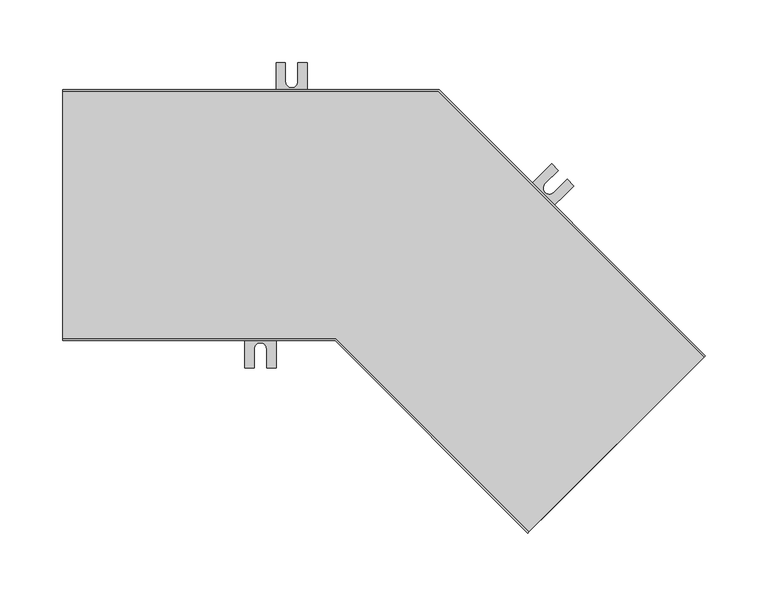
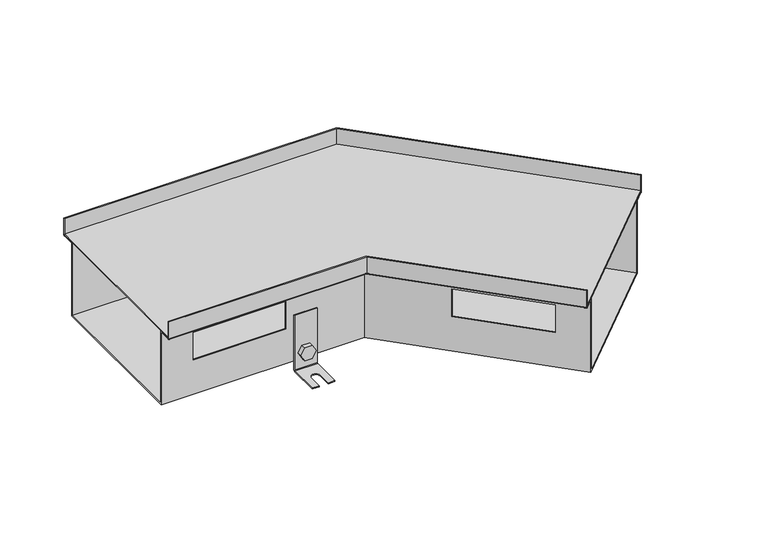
"""IFC4 building model written with IfcOpenShell, lengths in millimetres: proxy geometry, TECHNO_Угловой элемент_KVU : 200_105_135°."""

from ifc_helpers import new_model, si_unit, point, frame, frame_2d, origin, place, context, project, spatial, polyline, circle_curve, ellipse_curve, trimmed, segment, composite_curve, outline, extrude, source, transform, mapped, element, save
from ifc_brep_helpers import plane_surface, cylinder_surface, revolved_surface, advanced_brep


def mechanical_equipment_6aecba1d(model_context):
    return source(origin(), model_context, "Body", "SolidModel", [
        extrude(outline(composite_curve([segment(trimmed(circle_curve(frame_2d((0.0, -7.4999999)), 7.5), [point((0.0, -15.0))], [point((0.0, 0.0))], False, "CARTESIAN"), True, "CONTINUOUS"), segment(trimmed(circle_curve(frame_2d((0.0, -7.4999999)), 7.5), [point((0.0, 0.0))], [point((0.0, -15.0))], False, "CARTESIAN"), True, "CONTINUOUS")], self_intersect=False)), frame((363.5688996, -48.5631347, -95.5), z_axis=(0.7071067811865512, 0.7071067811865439, 0.0), x_axis=(0.0, 0.0, 1.0)), (0.0, 0.0, 1.0), 1.5),
        extrude(outline(polyline([(0.0, 0.0), (8.6602541, 0.0), (12.9903811, -7.5), (8.660254, -15.0), (0.0, -15.0), (-4.330127, -7.5), (0.0, 0.0)])), frame((347.6871017, -41.5908822, -95.5), z_axis=(0.7071067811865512, 0.7071067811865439, 0.0), x_axis=(0.3535533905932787, -0.3535533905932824, -0.8660254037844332)), (0.0, 0.0, 1.0), 5.1),
        advanced_brep(
        [(366.2559054, -52.9471968, -50.5), (366.2559054, -52.9471968, -113.5), (365.69022, -53.5128822, -114.3), (342.3556962, -76.847406, -114.3), (342.3556962, -76.847406, -115.5), (365.69022, -53.5128822, -115.5), (367.1044335, -52.0986686, -113.5), (367.1044335, -52.0986686, -50.5), (348.5782359, -35.2695272, -50.5), (349.426764, -34.4209991, -50.5), (349.426764, -34.4209991, -113.5), (348.0125504, -35.8352127, -115.5), (324.6780267, -59.1697364, -115.5), (324.6780267, -59.1697364, -114.3), (348.0125504, -35.8352127, -114.3), (348.5782359, -35.2695272, -113.5), (329.9813275, -64.4730373, -114.3), (340.5879292, -53.8664356, -114.3), (347.6589971, -60.9375034, -114.3), (337.0523953, -71.5441051, -114.3), (337.0523953, -71.5441051, -115.5), (329.9813275, -64.4730373, -115.5), (347.6589971, -60.9375034, -115.5), (340.5879292, -53.8664356, -115.5)],
        [
            (0, 1),
            (1, 2, circle_curve(frame((365.69022, -53.5128822, -113.5), z_axis=(-0.7071067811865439, 0.7071067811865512, 0.0), x_axis=(-0.7071067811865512, -0.7071067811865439, 0.0)), 0.8)),
            (2, 3),
            (3, 4),
            (4, 5),
            (5, 6, circle_curve(frame((365.69022, -53.5128822, -113.5), z_axis=(0.7071067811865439, -0.7071067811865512, 0.0), x_axis=(-0.7071067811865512, -0.7071067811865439, 0.0)), 2.0)),
            (6, 7),
            (7, 0),
            (8, 9),
            (9, 10),
            (10, 11, circle_curve(frame((348.0125504, -35.8352127, -113.5), z_axis=(-0.7071067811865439, 0.7071067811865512, 0.0), x_axis=(-0.7071067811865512, -0.7071067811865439, 0.0)), 2.0)),
            (11, 12),
            (12, 13),
            (13, 14),
            (14, 15, circle_curve(frame((348.0125504, -35.8352127, -113.5), z_axis=(0.7071067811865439, -0.7071067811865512, 0.0), x_axis=(-0.7071067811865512, -0.7071067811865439, 0.0)), 0.8)),
            (15, 8),
            (0, 8),
            (15, 1),
            (14, 2),
            (13, 16),
            (16, 17),
            (17, 18, circle_curve(frame((344.1234631, -57.4019695, -114.3), z_axis=(0.0, 0.0, -1.0), x_axis=(0.7071067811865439, -0.7071067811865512, 0.0)), 5.0)),
            (18, 19),
            (19, 3),
            (19, 20),
            (20, 4),
            (12, 21),
            (21, 16),
            (20, 22),
            (22, 23, circle_curve(frame((344.1234631, -57.4019695, -115.5), z_axis=(0.0, 0.0, 1.0), x_axis=(0.7071067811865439, -0.7071067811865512, 0.0)), 5.0)),
            (23, 21),
            (11, 5),
            (10, 6),
            (9, 7),
            (23, 17),
            (18, 22),
        ],
        [
            plane_surface(frame((366.2559054, -52.9471968, -50.5), z_axis=(0.7071067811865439, -0.7071067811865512, 0.0), x_axis=(0.0, 0.0, -1.0))),
            plane_surface(frame((348.5782359, -35.2695272, -50.5), z_axis=(-0.7071067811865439, 0.7071067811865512, 0.0), x_axis=(0.0, 0.0, 1.0))),
            plane_surface(frame((366.2559054, -52.9471968, -50.5), z_axis=(-0.7071067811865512, -0.7071067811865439, 0.0), x_axis=(-0.7071067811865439, 0.7071067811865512, 0.0))),
            revolved_surface(polyline([(347.44686497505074, -36.40089812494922, -113.5), (365.12453452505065, -54.07856767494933, -113.5)]), (348.0125504, -35.8352127, -113.5), (-0.7071067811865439, 0.7071067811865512, 0.0)),
            plane_surface(frame((365.69022, -53.5128822, -114.3), z_axis=(0.0, 0.0, 1.0), x_axis=(-0.7071067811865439, 0.7071067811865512, 0.0))),
            plane_surface(frame((342.3556962, -76.847406, -114.3), z_axis=(-0.7071067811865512, -0.7071067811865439, 0.0), x_axis=(-0.7071067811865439, 0.7071067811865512, 0.0))),
            plane_surface(frame((342.3556962, -76.847406, -115.5), z_axis=(0.0, 0.0, -1.0), x_axis=(-0.7071067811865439, 0.7071067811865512, 0.0))),
            cylinder_surface(frame((348.0125504, -35.8352127, -113.5), z_axis=(0.7071067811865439, -0.7071067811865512, 0.0), x_axis=(-0.7071067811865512, -0.7071067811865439, 0.0)), 2.0),
            plane_surface(frame((367.1044335, -52.0986686, -113.5), z_axis=(0.7071067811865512, 0.7071067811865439, 0.0), x_axis=(-0.7071067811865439, 0.7071067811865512, 0.0))),
            plane_surface(frame((367.1044335, -52.0986686, -50.5), z_axis=(0.0, 0.0, 1.0), x_axis=(-0.7071067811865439, 0.7071067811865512, 0.0))),
            plane_surface(frame((340.5879292, -53.8664356, -114.3), z_axis=(0.7071067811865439, -0.7071067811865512, 0.0), x_axis=(0.0, 0.0, -1.0))),
            plane_surface(frame((337.0523953, -71.5441051, -114.3), z_axis=(-0.707106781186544, 0.7071067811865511, 0.0), x_axis=(0.0, 0.0, -1.0))),
            revolved_surface(polyline([(347.6589970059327, -60.93750340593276, -114.3), (347.6589970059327, -60.93750340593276, -115.5)]), (344.1234631, -57.4019695, -115.5), (0.0, 0.0, 1.0)),
        ],
        [
            (0, [[1, 2, 3, 4, 5, 6, 7, 8]]),
            (1, [[9, 10, 11, 12, 13, 14, 15, 16]]),
            (2, [[-1, 17, -16, 18]]),
            (3, [[-2, -18, -15, 19]]),
            (4, [[-3, -19, -14, 20, 21, 22, 23, 24]]),
            (5, [[-4, -24, 25, 26]]),
            (5, [[-13, 27, 28, -20]]),
            (6, [[-5, -26, 29, 30, 31, -27, -12, 32]]),
            (7, [[-6, -32, -11, 33]]),
            (8, [[-7, -33, -10, 34]]),
            (9, [[-8, -34, -9, -17]]),
            (10, [[35, -21, -28, -31]]),
            (11, [[36, -29, -25, -23]]),
            (12, [[-35, -30, -36, -22]]),
        ],
    ),
        extrude(outline(composite_curve([segment(trimmed(circle_curve(frame_2d((0.0, -7.5)), 7.5), [point((0.0, -15.0))], [point((0.0, 0.0))], False, "CARTESIAN"), True, "CONTINUOUS"), segment(trimmed(circle_curve(frame_2d((0.0, -7.5)), 7.5), [point((0.0, 0.0))], [point((0.0, -15.0))], False, "CARTESIAN"), True, "CONTINUOUS")], self_intersect=False)), frame((367.3165656, 11.7530737, -95.5), z_axis=(0.7071067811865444, 0.7071067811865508, 0.0), x_axis=(0.0, 0.0, -1.0)), (0.0, 0.0, 1.0), 1.5),
        extrude(outline(polyline([(0.0, 0.0), (4.330127, -7.5), (0.0, -15.0), (-8.660254, -15.0), (-12.990381, -7.5), (-8.6602541, 0.0), (0.0, 0.0)])), frame((380.6527791, 2.2352368, -95.5), z_axis=(0.7071067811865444, 0.7071067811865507, 0.0), x_axis=(0.35355339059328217, -0.35355339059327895, 0.8660254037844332)), (0.0, 0.0, 1.0), 5.1),
        advanced_brep(
        [(365.69022, 17.1977959, -50.5), (365.69022, 17.1977959, -113.5), (366.2559054, 17.7634813, -114.3), (389.5904292, 41.0980051, -114.3), (389.5904292, 41.0980051, -115.5), (366.2559054, 17.7634813, -115.5), (364.8416918, 16.3492678, -113.5), (364.8416918, 16.3492678, -50.5), (383.3678895, -0.4798736, -50.5), (382.5193614, -1.3284017, -50.5), (382.5193614, -1.3284017, -113.5), (383.9335749, 0.0858118, -115.5), (407.2680987, 23.4203356, -115.5), (407.2680987, 23.4203356, -114.3), (383.9335749, 0.0858118, -114.3), (383.3678895, -0.4798736, -113.5), (401.9647978, 28.7236365, -114.3), (391.3581961, 18.1170347, -114.3), (384.2871283, 25.1881026, -114.3), (394.89373, 35.7947043, -114.3), (394.89373, 35.7947043, -115.5), (401.9647978, 28.7236365, -115.5), (384.2871283, 25.1881026, -115.5), (391.3581961, 18.1170347, -115.5)],
        [
            (0, 1),
            (1, 2, circle_curve(frame((366.2559054, 17.7634813, -113.5), z_axis=(0.7071067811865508, -0.7071067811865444, 0.0), x_axis=(0.7071067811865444, 0.7071067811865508, 0.0)), 0.8)),
            (2, 3),
            (3, 4),
            (4, 5),
            (5, 6, circle_curve(frame((366.2559054, 17.7634813, -113.5), z_axis=(-0.7071067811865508, 0.7071067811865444, 0.0), x_axis=(0.7071067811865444, 0.7071067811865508, 0.0)), 2.0)),
            (6, 7),
            (7, 0),
            (8, 9),
            (9, 10),
            (10, 11, circle_curve(frame((383.9335749, 0.0858118, -113.5), z_axis=(0.7071067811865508, -0.7071067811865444, 0.0), x_axis=(0.7071067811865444, 0.7071067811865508, 0.0)), 2.0)),
            (11, 12),
            (12, 13),
            (13, 14),
            (14, 15, circle_curve(frame((383.9335749, 0.0858118, -113.5), z_axis=(-0.7071067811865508, 0.7071067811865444, 0.0), x_axis=(0.7071067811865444, 0.7071067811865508, 0.0)), 0.8)),
            (15, 8),
            (0, 8),
            (15, 1),
            (14, 2),
            (13, 16),
            (16, 17),
            (17, 18, circle_curve(frame((387.8226622, 21.6525686, -114.3), z_axis=(0.0, 0.0, -1.0), x_axis=(-0.7071067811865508, 0.7071067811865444, 0.0)), 5.0)),
            (18, 19),
            (19, 3),
            (19, 20),
            (20, 4),
            (12, 21),
            (21, 16),
            (20, 22),
            (22, 23, circle_curve(frame((387.8226622, 21.6525686, -115.5), z_axis=(0.0, 0.0, 1.0), x_axis=(-0.7071067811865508, 0.7071067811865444, 0.0)), 5.0)),
            (23, 21),
            (11, 5),
            (10, 6),
            (9, 7),
            (23, 17),
            (18, 22),
        ],
        [
            plane_surface(frame((365.69022, 17.1977959, -50.5), z_axis=(-0.7071067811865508, 0.7071067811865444, 0.0), x_axis=(0.0, 0.0, -1.0))),
            plane_surface(frame((383.3678895, -0.4798736, -50.5), z_axis=(0.7071067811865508, -0.7071067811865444, 0.0), x_axis=(0.0, 0.0, 1.0))),
            plane_surface(frame((365.69022, 17.1977959, -50.5), z_axis=(0.7071067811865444, 0.7071067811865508, 0.0), x_axis=(0.7071067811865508, -0.7071067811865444, 0.0))),
            revolved_surface(polyline([(384.4992603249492, 0.6514972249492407, -113.5), (366.8215908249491, 18.32916672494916, -113.5)]), (383.9335749, 0.0858118, -113.5), (0.7071067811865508, -0.7071067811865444, 0.0)),
            plane_surface(frame((366.2559054, 17.7634813, -114.3), z_axis=(0.0, 0.0, 1.0000000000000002), x_axis=(0.7071067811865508, -0.7071067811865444, 0.0))),
            plane_surface(frame((389.5904292, 41.0980051, -114.3), z_axis=(0.7071067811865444, 0.7071067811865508, 0.0), x_axis=(0.7071067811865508, -0.7071067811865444, 0.0))),
            plane_surface(frame((389.5904292, 41.0980051, -115.5), z_axis=(0.0, 0.0, -1.0000000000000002), x_axis=(0.7071067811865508, -0.7071067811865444, 0.0))),
            cylinder_surface(frame((383.9335749, 0.0858118, -113.5), z_axis=(-0.7071067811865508, 0.7071067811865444, 0.0), x_axis=(0.7071067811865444, 0.7071067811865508, 0.0)), 2.0),
            plane_surface(frame((364.8416918, 16.3492678, -113.5), z_axis=(-0.7071067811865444, -0.7071067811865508, 0.0), x_axis=(0.7071067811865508, -0.7071067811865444, 0.0))),
            plane_surface(frame((364.8416918, 16.3492678, -50.5), z_axis=(0.0, 0.0, 1.0000000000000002), x_axis=(0.7071067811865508, -0.7071067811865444, 0.0))),
            plane_surface(frame((391.3581961, 18.1170347, -114.3), z_axis=(-0.7071067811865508, 0.7071067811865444, 0.0), x_axis=(0.0, 0.0, -1.0))),
            plane_surface(frame((394.89373, 35.7947043, -114.3), z_axis=(0.7071067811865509, -0.7071067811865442, 0.0), x_axis=(0.0, 0.0, -1.0))),
            revolved_surface(polyline([(384.28712829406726, 25.18810250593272, -114.3), (384.28712829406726, 25.18810250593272, -115.5)]), (387.8226622, 21.6525686, -115.5), (0.0, 0.0, 1.0)),
        ],
        [
            (0, [[1, 2, 3, 4, 5, 6, 7, 8]]),
            (1, [[9, 10, 11, 12, 13, 14, 15, 16]]),
            (2, [[-1, 17, -16, 18]]),
            (3, [[-2, -18, -15, 19]]),
            (4, [[-3, -19, -14, 20, 21, 22, 23, 24]]),
            (5, [[-4, -24, 25, 26]]),
            (5, [[-13, 27, 28, -20]]),
            (6, [[-5, -26, 29, 30, 31, -27, -12, 32]]),
            (7, [[-6, -32, -11, 33]]),
            (8, [[-7, -33, -10, 34]]),
            (9, [[-8, -34, -9, -17]]),
            (10, [[35, -21, -28, -31]]),
            (11, [[36, -29, -25, -23]]),
            (12, [[-35, -30, -36, -22]]),
        ],
    ),
        extrude(outline(composite_curve([segment(trimmed(circle_curve(frame_2d((-95.5, 182.5)), 7.5), [point((-95.5, 175.0))], [point((-95.5, 190.0))], False, "CARTESIAN"), True, "CONTINUOUS"), segment(trimmed(circle_curve(frame_2d((-95.5, 182.5)), 7.5), [point((-95.5, 190.0))], [point((-95.5, 175.0))], False, "CARTESIAN"), True, "CONTINUOUS")], self_intersect=False)), frame((0.0, 85.2, 0.0), z_axis=(0.0, 1.0, 0.0), x_axis=(0.0, 0.0, 1.0)), (0.0, 0.0, 1.0), 1.5),
        extrude(outline(polyline([(-95.5, 173.839746), (-103.0, 178.169873), (-103.0, 186.830127), (-95.5, 191.160254), (-88.0, 186.830127), (-88.0, 178.169873), (-95.5, 173.839746)])), frame((0.0, 87.9, 0.0), z_axis=(0.0, 1.0, 0.0), x_axis=(0.0, 0.0, 1.0)), (0.0, 0.0, 1.0), 5.1),
        advanced_brep(
        [(195.0, 87.9, -50.5), (195.0, 86.7, -50.5), (195.0, 86.7, -113.5), (195.0, 88.7, -115.5), (195.0, 121.7, -115.5), (195.0, 121.7, -114.3), (195.0, 88.7, -114.3), (195.0, 87.9, -113.5), (170.0, 87.9, -50.5), (170.0, 87.9, -113.5), (170.0, 88.7, -114.3), (170.0, 121.7, -114.3), (170.0, 121.7, -115.5), (170.0, 88.7, -115.5), (170.0, 86.7, -113.5), (170.0, 86.7, -50.5), (187.5, 121.7, -114.3), (187.5, 106.7, -114.3), (177.5, 106.7, -114.3), (177.5, 121.7, -114.3), (177.5, 121.7, -115.5), (187.5, 121.7, -115.5), (177.5, 106.7, -115.5), (187.5, 106.7, -115.5)],
        [
            (0, 1),
            (1, 2),
            (2, 3, circle_curve(frame((195.0, 88.7, -113.5), z_axis=(1.0, 0.0, 0.0), x_axis=(0.0, 1.0, 0.0)), 2.0)),
            (3, 4),
            (4, 5),
            (5, 6),
            (6, 7, circle_curve(frame((195.0, 88.7, -113.5), z_axis=(-1.0, 0.0, 0.0), x_axis=(0.0, 1.0, 0.0)), 0.8)),
            (7, 0),
            (8, 9),
            (9, 10, circle_curve(frame((170.0, 88.7, -113.5), z_axis=(1.0, 0.0, 0.0), x_axis=(0.0, 1.0, 0.0)), 0.8)),
            (10, 11),
            (11, 12),
            (12, 13),
            (13, 14, circle_curve(frame((170.0, 88.7, -113.5), z_axis=(-1.0, 0.0, 0.0), x_axis=(0.0, 1.0, 0.0)), 2.0)),
            (14, 15),
            (15, 8),
            (7, 9),
            (8, 0),
            (6, 10),
            (5, 16),
            (16, 17),
            (17, 18, circle_curve(frame((182.5, 106.7, -114.3), z_axis=(0.0, 0.0, -1.0), x_axis=(1.0, 0.0, 0.0)), 5.0)),
            (18, 19),
            (19, 11),
            (19, 20),
            (20, 12),
            (4, 21),
            (21, 16),
            (3, 13),
            (20, 22),
            (22, 23, circle_curve(frame((182.5, 106.7, -115.5), z_axis=(0.0, 0.0, 1.0), x_axis=(1.0, 0.0, 0.0)), 5.0)),
            (23, 21),
            (2, 14),
            (1, 15),
            (18, 22),
            (23, 17),
        ],
        [
            plane_surface(frame((195.0, 87.9, -50.5), z_axis=(1.0, 0.0, 0.0), x_axis=(0.0, 0.0, -1.0))),
            plane_surface(frame((170.0, 87.9, -50.5), z_axis=(-1.0, 0.0, 0.0), x_axis=(0.0, 0.0, 1.0))),
            plane_surface(frame((195.0, 87.9, -50.5), z_axis=(0.0, 1.0, 0.0), x_axis=(-1.0, 0.0, 0.0))),
            revolved_surface(polyline([(170.0, 89.5, -113.5), (195.0, 89.5, -113.5)]), (170.0, 88.7, -113.5), (-1.0, 0.0, 0.0)),
            plane_surface(frame((195.0, 88.7, -114.3), z_axis=(0.0, 0.0, 1.0), x_axis=(-1.0, 0.0, 0.0))),
            plane_surface(frame((195.0, 121.7, -114.3), z_axis=(0.0, 1.0, 0.0), x_axis=(-1.0, 0.0, 0.0))),
            plane_surface(frame((195.0, 121.7, -115.5), z_axis=(0.0, 0.0, -1.0), x_axis=(-1.0, 0.0, 0.0))),
            cylinder_surface(frame((170.0, 88.7, -113.5), z_axis=(1.0, 0.0, 0.0), x_axis=(0.0, 1.0, 0.0)), 2.0),
            plane_surface(frame((195.0, 86.7, -113.5), z_axis=(0.0, -1.0, 0.0), x_axis=(-1.0, 0.0, 0.0))),
            plane_surface(frame((195.0, 86.7, -50.5), z_axis=(0.0, 0.0, 1.0), x_axis=(-1.0, 0.0, 0.0))),
            plane_surface(frame((177.5, 106.7, -114.3), z_axis=(1.0, 0.0, 0.0), x_axis=(0.0, 0.0, -1.0))),
            plane_surface(frame((187.5, 121.7, -114.3), z_axis=(-1.0, 0.0, 0.0), x_axis=(0.0, 0.0, -1.0))),
            revolved_surface(polyline([(187.5, 106.7, -114.3), (187.5, 106.7, -115.5)]), (182.5, 106.7, -115.5), (0.0, 0.0, 1.0)),
        ],
        [
            (0, [[1, 2, 3, 4, 5, 6, 7, 8]]),
            (1, [[9, 10, 11, 12, 13, 14, 15, 16]]),
            (2, [[17, -9, 18, -8]]),
            (3, [[19, -10, -17, -7]]),
            (4, [[20, 21, 22, 23, 24, -11, -19, -6]]),
            (5, [[-24, 25, 26, -12]]),
            (5, [[27, 28, -20, -5]]),
            (6, [[29, -13, -26, 30, 31, 32, -27, -4]]),
            (7, [[33, -14, -29, -3]]),
            (8, [[34, -15, -33, -2]]),
            (9, [[-18, -16, -34, -1]]),
            (10, [[-30, -25, -23, 35]]),
            (11, [[-21, -28, -32, 36]]),
            (12, [[-22, -36, -31, -35]]),
        ],
    ),
        extrude(outline(composite_curve([segment(trimmed(circle_curve(frame_2d((-95.5, 157.5)), 7.5), [point((-95.5, 150.0))], [point((-95.5, 165.0))], False, "CARTESIAN"), True, "CONTINUOUS"), segment(trimmed(circle_curve(frame_2d((-95.5, 157.5)), 7.5), [point((-95.5, 165.0))], [point((-95.5, 150.0))], False, "CARTESIAN"), True, "CONTINUOUS")], self_intersect=False)), frame((0.0, -86.7, 0.0), z_axis=(0.0, 1.0, 0.0), x_axis=(0.0, 0.0, 1.0)), (0.0, 0.0, 1.0), 1.5),
        extrude(outline(polyline([(-95.5, 148.839746), (-103.0, 153.169873), (-103.0, 161.830127), (-95.5, 166.160254), (-88.0, 161.830127), (-88.0, 153.169873), (-95.5, 148.839746)])), frame((0.0, -93.0, 0.0), z_axis=(0.0, 1.0, 0.0), x_axis=(0.0, 0.0, 1.0)), (0.0, 0.0, 1.0), 5.1),
        advanced_brep(
        [(170.0, -87.9, -50.5), (170.0, -87.9, -113.5), (170.0, -88.7, -114.3), (170.0, -121.7, -114.3), (170.0, -121.7, -115.5), (170.0, -88.7, -115.5), (170.0, -86.7, -113.5), (170.0, -86.7, -50.5), (145.0, -87.9, -50.5), (145.0, -86.7, -50.5), (145.0, -86.7, -113.5), (145.0, -88.7, -115.5), (145.0, -121.7, -115.5), (145.0, -121.7, -114.3), (145.0, -88.7, -114.3), (145.0, -87.9, -113.5), (152.5, -121.7, -114.3), (152.5, -106.7, -114.3), (162.5, -106.7, -114.3), (162.5, -121.7, -114.3), (162.5, -121.7, -115.5), (152.5, -121.7, -115.5), (162.5, -106.7, -115.5), (152.5, -106.7, -115.5)],
        [
            (0, 1),
            (1, 2, circle_curve(frame((170.0, -88.7, -113.5), z_axis=(-1.0, 0.0, 0.0), x_axis=(0.0, -1.0, 0.0)), 0.8)),
            (2, 3),
            (3, 4),
            (4, 5),
            (5, 6, circle_curve(frame((170.0, -88.7, -113.5), z_axis=(1.0, 0.0, 0.0), x_axis=(0.0, -1.0, 0.0)), 2.0)),
            (6, 7),
            (7, 0),
            (8, 9),
            (9, 10),
            (10, 11, circle_curve(frame((145.0, -88.7, -113.5), z_axis=(-1.0, 0.0, 0.0), x_axis=(0.0, -1.0, 0.0)), 2.0)),
            (11, 12),
            (12, 13),
            (13, 14),
            (14, 15, circle_curve(frame((145.0, -88.7, -113.5), z_axis=(1.0, 0.0, 0.0), x_axis=(0.0, -1.0, 0.0)), 0.8)),
            (15, 8),
            (0, 8),
            (15, 1),
            (14, 2),
            (13, 16),
            (16, 17),
            (17, 18, circle_curve(frame((157.5, -106.7, -114.3), z_axis=(0.0, 0.0, -1.0), x_axis=(1.0, 0.0, 0.0)), 5.0)),
            (18, 19),
            (19, 3),
            (19, 20),
            (20, 4),
            (12, 21),
            (21, 16),
            (20, 22),
            (22, 23, circle_curve(frame((157.5, -106.7, -115.5), z_axis=(0.0, 0.0, 1.0), x_axis=(1.0, 0.0, 0.0)), 5.0)),
            (23, 21),
            (11, 5),
            (10, 6),
            (9, 7),
            (23, 17),
            (18, 22),
        ],
        [
            plane_surface(frame((170.0, -87.9, -50.5), z_axis=(1.0, 0.0, 0.0), x_axis=(0.0, 0.0, -1.0))),
            plane_surface(frame((145.0, -87.9, -50.5), z_axis=(-1.0, 0.0, 0.0), x_axis=(0.0, 0.0, 1.0))),
            plane_surface(frame((170.0, -87.9, -50.5), z_axis=(0.0, -1.0, 0.0), x_axis=(-1.0, 0.0, 0.0))),
            revolved_surface(polyline([(145.0, -89.5, -113.5), (170.0, -89.5, -113.5)]), (145.0, -88.7, -113.5), (-1.0, 0.0, 0.0)),
            plane_surface(frame((170.0, -88.7, -114.3), z_axis=(0.0, 0.0, 1.0), x_axis=(-1.0, 0.0, 0.0))),
            plane_surface(frame((170.0, -121.7, -114.3), z_axis=(0.0, -1.0, 0.0), x_axis=(-1.0, 0.0, 0.0))),
            plane_surface(frame((170.0, -121.7, -115.5), z_axis=(0.0, 0.0, -1.0), x_axis=(-1.0, 0.0, 0.0))),
            cylinder_surface(frame((145.0, -88.7, -113.5), z_axis=(1.0, 0.0, 0.0), x_axis=(0.0, -1.0, 0.0)), 2.0),
            plane_surface(frame((170.0, -86.7, -113.5), z_axis=(0.0, 1.0, 0.0), x_axis=(-1.0, 0.0, 0.0))),
            plane_surface(frame((170.0, -86.7, -50.5), z_axis=(0.0, 0.0, 1.0), x_axis=(-1.0, 0.0, 0.0))),
            plane_surface(frame((152.5, -106.7, -114.3), z_axis=(1.0, 0.0, 0.0), x_axis=(0.0, 0.0, -1.0))),
            plane_surface(frame((162.5, -121.7, -114.3), z_axis=(-1.0, 0.0, 0.0), x_axis=(0.0, 0.0, -1.0))),
            revolved_surface(polyline([(162.5, -106.7, -114.3), (162.5, -106.7, -115.5)]), (157.5, -106.7, -115.5), (0.0, 0.0, 1.0)),
        ],
        [
            (0, [[1, 2, 3, 4, 5, 6, 7, 8]]),
            (1, [[9, 10, 11, 12, 13, 14, 15, 16]]),
            (2, [[-1, 17, -16, 18]]),
            (3, [[-2, -18, -15, 19]]),
            (4, [[-3, -19, -14, 20, 21, 22, 23, 24]]),
            (5, [[-4, -24, 25, 26]]),
            (5, [[-13, 27, 28, -20]]),
            (6, [[-5, -26, 29, 30, 31, -27, -12, 32]]),
            (7, [[-6, -32, -11, 33]]),
            (8, [[-7, -33, -10, 34]]),
            (9, [[-8, -34, -9, -17]]),
            (10, [[35, -21, -28, -31]]),
            (11, [[36, -29, -25, -23]]),
            (12, [[-35, -30, -36, -22]]),
        ],
    ),
        extrude(outline(polyline([(511.2835062, -112.9805625), (371.5592063, -252.7048625), (217.6543438, -98.8), (0.0, -98.8), (0.0, 98.8), (299.5029437, 98.8), (511.2835062, -112.9805625)])), frame((0.0, 0.0, -19.3), z_axis=(0.0, 0.0, 1.0), x_axis=(1.0, 0.0, 0.0)), (0.0, 0.0, 1.0), 1.2),
        advanced_brep(
        [(370.7106781, -253.5533906, -19.3), (371.5592063, -252.7048625, -20.5), (381.1758585, -243.0882102, -20.5), (381.1758585, -243.0882102, -105.0), (501.666854, -122.5972147, -105.0), (501.666854, -122.5972147, -20.5), (511.2835062, -112.9805625, -20.5), (512.1320344, -112.1320344, -19.3), (512.1320344, -112.1320344, 0.0), (511.2835062, -112.9805625, 0.0), (511.2835062, -112.9805625, -19.3), (501.666854, -122.5972147, -19.3), (500.8183259, -123.4457429, -20.5), (500.8183259, -123.4457429, -103.8), (382.0243866, -242.2396821, -103.8), (382.0243866, -242.2396821, -20.5), (381.1758585, -243.0882102, -19.3), (371.5592063, -252.7048625, -19.3), (371.5592063, -252.7048625, 0.0), (370.7106781, -253.5533906, 0.0), (0.0, -100.0, -19.3), (0.0, -100.0, 0.0), (0.0, -98.8, 0.0), (0.0, -98.8, -19.3), (0.0, -85.2, -19.3), (0.0, -84.0, -20.5), (0.0, -84.0, -103.8), (0.0, 84.0, -103.8), (0.0, 84.0, -20.5), (0.0, 85.2, -19.3), (0.0, 98.8, -19.3), (0.0, 98.8, 0.0), (0.0, 100.0, 0.0), (0.0, 100.0, -19.3), (0.0, 98.8, -20.5), (0.0, 85.2, -20.5), (0.0, 85.2, -105.0), (0.0, -85.2, -105.0), (0.0, -85.2, -20.5), (0.0, -98.8, -20.5), (217.6543438, -98.8, -20.5), (217.1572875, -100.0, -19.3), (217.6543438, -98.8, 0.0), (217.6543438, -98.8, -19.3), (223.2876482, -85.2, -105.0), (223.2876482, -85.2, -20.5), (35.0, -85.2, -33.0), (137.0, -85.2, -33.0), (137.0, -85.2, -65.0), (35.0, -85.2, -65.0), (223.7847045, -84.0, -20.5), (223.7847045, -84.0, -103.8), (137.0, -84.0, -33.0), (35.0, -84.0, -33.0), (35.0, -84.0, -65.0), (137.0, -84.0, -65.0), (223.2876482, -85.2, -19.3), (284.3022295, -146.2145812, -33.0), (356.4271211, -218.3394729, -33.0), (356.4271211, -218.3394729, -65.0), (284.3022295, -146.2145812, -65.0), (293.8696393, 85.2, -105.0), (293.372583, 84.0, -103.8), (357.2756493, -217.4909448, -33.0), (285.1507576, -145.3660531, -33.0), (285.1507576, -145.3660531, -65.0), (357.2756493, -217.4909448, -65.0), (217.1572875, -100.0, 0.0), (293.8696393, 85.2, -20.5), (476.9181167, -97.8484774, -33.0), (404.793225, -25.7235857, -33.0), (404.793225, -25.7235857, -65.0), (476.9181167, -97.8484774, -65.0), (299.5029437, 98.8, -20.5), (300.0, 100.0, -19.3), (300.0, 100.0, 0.0), (299.5029437, 98.8, 0.0), (299.5029437, 98.8, -19.3), (293.8696393, 85.2, -19.3), (293.372583, 84.0, -20.5), (403.9446968, -26.5721138, -33.0), (476.0695885, -98.6970055, -33.0), (476.0695885, -98.6970055, -65.0), (403.9446968, -26.5721138, -65.0), (137.0, 85.2, -33.0), (35.0, 85.2, -33.0), (35.0, 85.2, -65.0), (137.0, 85.2, -65.0), (35.0, 84.0, -33.0), (137.0, 84.0, -33.0), (137.0, 84.0, -65.0), (35.0, 84.0, -65.0)],
        [
            (0, 1, circle_curve(frame((371.5592063, -252.7048625, -19.3), z_axis=(0.7071067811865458, -0.7071067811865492, 0.0), x_axis=(-0.7071067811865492, -0.7071067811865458, 0.0)), 1.2)),
            (1, 2),
            (2, 3),
            (3, 4),
            (4, 5),
            (5, 6),
            (6, 7, circle_curve(frame((511.2835062, -112.9805625, -19.3), z_axis=(0.7071067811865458, -0.7071067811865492, 0.0), x_axis=(-0.7071067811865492, -0.7071067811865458, 0.0)), 1.2)),
            (7, 8),
            (8, 9),
            (9, 10),
            (10, 11),
            (11, 12, circle_curve(frame((501.666854, -122.5972147, -20.5), z_axis=(0.7071067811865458, -0.7071067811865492, 0.0), x_axis=(-0.7071067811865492, -0.7071067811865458, 0.0)), 1.2)),
            (12, 13),
            (13, 14),
            (14, 15),
            (15, 16, circle_curve(frame((381.1758585, -243.0882102, -20.5), z_axis=(0.7071067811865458, -0.7071067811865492, 0.0), x_axis=(-0.7071067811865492, -0.7071067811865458, 0.0)), 1.2)),
            (16, 17),
            (17, 18),
            (18, 19),
            (19, 0),
            (20, 21),
            (21, 22),
            (22, 23),
            (23, 24),
            (24, 25, circle_curve(frame((0.0, -85.2, -20.5), z_axis=(-1.0, 0.0, 0.0), x_axis=(0.0, -1.0, 0.0)), 1.2)),
            (25, 26),
            (26, 27),
            (27, 28),
            (28, 29, circle_curve(frame((0.0, 85.2, -20.5), z_axis=(-1.0, 0.0, 0.0), x_axis=(0.0, -1.0, 0.0)), 1.2)),
            (29, 30),
            (30, 31),
            (31, 32),
            (32, 33),
            (33, 34, circle_curve(frame((0.0, 98.8, -19.3), z_axis=(-1.0, 0.0, 0.0), x_axis=(0.0, -1.0, 0.0)), 1.2)),
            (34, 35),
            (35, 36),
            (36, 37),
            (37, 38),
            (38, 39),
            (39, 20, circle_curve(frame((0.0, -98.8, -19.3), z_axis=(-1.0, 0.0, 0.0), x_axis=(0.0, -1.0, 0.0)), 1.2)),
            (39, 40),
            (40, 41, ellipse_curve(frame((217.6543438, -98.8, -19.3), z_axis=(-0.9238795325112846, 0.38268343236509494, 0.0), x_axis=(0.3826834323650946, 0.9238795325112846, 0.0)), 1.2988706, 1.2)),
            (41, 20),
            (22, 42),
            (42, 43),
            (43, 23),
            (37, 44),
            (44, 45),
            (45, 38),
            (46, 47),
            (47, 48),
            (48, 49),
            (49, 46),
            (25, 50),
            (50, 51),
            (51, 26),
            (52, 53),
            (53, 54),
            (54, 55),
            (55, 52),
            (24, 56),
            (56, 50, ellipse_curve(frame((223.2876482, -85.2, -20.5), z_axis=(-0.9238795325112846, 0.38268343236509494, 0.0), x_axis=(0.3826834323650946, 0.9238795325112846, 0.0)), 1.2988706, 1.2)),
            (0, 41),
            (40, 1),
            (45, 2),
            (44, 3),
            (57, 58),
            (58, 59),
            (59, 60),
            (60, 57),
            (36, 61),
            (61, 4),
            (13, 62),
            (62, 27),
            (51, 14),
            (50, 15),
            (63, 64),
            (64, 65),
            (65, 66),
            (66, 63),
            (56, 16),
            (43, 17),
            (42, 18),
            (21, 67),
            (67, 19),
            (61, 68),
            (68, 5),
            (69, 70),
            (70, 71),
            (71, 72),
            (72, 69),
            (68, 35),
            (34, 73),
            (73, 6),
            (73, 74, ellipse_curve(frame((299.5029437, 98.8, -19.3), z_axis=(0.9238795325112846, -0.38268343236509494, 0.0), x_axis=(-0.38268343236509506, -0.9238795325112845, 0.0)), 1.2988706, 1.2)),
            (74, 7),
            (74, 75),
            (75, 8),
            (75, 32),
            (31, 76),
            (76, 9),
            (76, 77),
            (77, 10),
            (77, 30),
            (29, 78),
            (78, 11),
            (78, 79, ellipse_curve(frame((293.8696393, 85.2, -20.5), z_axis=(0.9238795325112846, -0.38268343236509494, 0.0), x_axis=(-0.38268343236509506, -0.9238795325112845, 0.0)), 1.2988706, 1.2)),
            (79, 12),
            (79, 62),
            (80, 81),
            (81, 82),
            (82, 83),
            (83, 80),
            (84, 85),
            (85, 86),
            (86, 87),
            (87, 84),
            (33, 74),
            (28, 79),
            (88, 89),
            (89, 90),
            (90, 91),
            (91, 88),
            (41, 67),
            (46, 53),
            (52, 47),
            (88, 85),
            (84, 89),
            (49, 54),
            (91, 86),
            (48, 55),
            (90, 87),
            (57, 64),
            (63, 58),
            (80, 70),
            (69, 81),
            (66, 59),
            (72, 82),
            (65, 60),
            (71, 83),
        ],
        [
            plane_surface(frame((441.4213562, -182.8427125, 0.0), z_axis=(0.7071067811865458, -0.7071067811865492, 0.0), x_axis=(0.0, 0.0, 1.0))),
            plane_surface(frame((0.0, 0.0, 0.0), z_axis=(-1.0, 0.0, 0.0), x_axis=(0.0, 0.0, 1.0))),
            cylinder_surface(frame((258.5786438, -98.8, -19.3), z_axis=(1.0, 0.0, 0.0), x_axis=(0.0, -1.0, 0.0)), 1.2),
            plane_surface(frame((217.6543438, -98.8, -19.3), z_axis=(0.0, 1.0, 0.0), x_axis=(-1.0, 0.0, 0.0))),
            plane_surface(frame((223.2876482, -85.2, -20.5), z_axis=(0.0, -1.0, 0.0), x_axis=(-1.0, 0.0, 0.0))),
            plane_surface(frame((223.7847045, -84.0, -103.8), z_axis=(0.0, 1.0, 0.0), x_axis=(-1.0, 0.0, 0.0))),
            cylinder_surface(frame((258.5786438, -85.2, -20.5), z_axis=(1.0, 0.0, 0.0), x_axis=(0.0, -1.0, 0.0)), 1.2),
            cylinder_surface(frame((371.5592063, -252.7048625, -19.3), z_axis=(0.7071067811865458, -0.7071067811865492, 0.0), x_axis=(-0.7071067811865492, -0.7071067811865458, 0.0)), 1.2),
            plane_surface(frame((371.5592063, -252.7048625, -20.5), z_axis=(0.0, 0.0, -1.0), x_axis=(-0.7071067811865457, 0.7071067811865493, 0.0))),
            plane_surface(frame((381.1758585, -243.0882102, -20.5), z_axis=(-0.7071067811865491, -0.7071067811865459, 0.0), x_axis=(-0.7071067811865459, 0.7071067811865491, 0.0))),
            plane_surface(frame((381.1758585, -243.0882102, -105.0), z_axis=(0.0, 0.0, -1.0), x_axis=(-0.7071067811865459, 0.7071067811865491, 0.0))),
            plane_surface(frame((500.8183259, -123.4457429, -103.8), z_axis=(0.0, 0.0, 1.0), x_axis=(-0.7071067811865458, 0.7071067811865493, 0.0))),
            plane_surface(frame((382.0243866, -242.2396821, -103.8), z_axis=(0.7071067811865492, 0.7071067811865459, 0.0), x_axis=(-0.7071067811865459, 0.7071067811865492, 0.0))),
            cylinder_surface(frame((381.1758585, -243.0882102, -20.5), z_axis=(0.7071067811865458, -0.7071067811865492, 0.0), x_axis=(-0.7071067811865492, -0.7071067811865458, 0.0)), 1.2),
            plane_surface(frame((381.1758585, -243.0882102, -19.3), z_axis=(0.0, 0.0, 1.0), x_axis=(-0.7071067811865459, 0.7071067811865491, 0.0))),
            plane_surface(frame((371.5592063, -252.7048625, -19.3), z_axis=(0.7071067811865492, 0.7071067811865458, 0.0), x_axis=(-0.7071067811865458, 0.7071067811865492, 0.0))),
            plane_surface(frame((371.5592063, -252.7048625, 0.0), z_axis=(0.0, 0.0, 1.0), x_axis=(-0.7071067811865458, 0.7071067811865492, 0.0))),
            plane_surface(frame((501.666854, -122.5972147, -105.0), z_axis=(0.7071067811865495, 0.7071067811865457, 0.0), x_axis=(-0.7071067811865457, 0.7071067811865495, 0.0))),
            plane_surface(frame((501.666854, -122.5972147, -20.5), z_axis=(0.0, 0.0, -1.0000000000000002), x_axis=(-0.7071067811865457, 0.7071067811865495, 0.0))),
            cylinder_surface(frame((511.2835062, -112.9805625, -19.3), z_axis=(0.7071067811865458, -0.7071067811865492, 0.0), x_axis=(-0.7071067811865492, -0.7071067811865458, 0.0)), 1.2),
            plane_surface(frame((512.1320344, -112.1320344, -19.3), z_axis=(0.7071067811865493, 0.7071067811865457, 0.0), x_axis=(-0.7071067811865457, 0.7071067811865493, 0.0))),
            plane_surface(frame((512.1320344, -112.1320344, 0.0), z_axis=(0.0, 0.0, 1.0), x_axis=(-0.7071067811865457, 0.7071067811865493, 0.0))),
            plane_surface(frame((511.2835062, -112.9805625, 0.0), z_axis=(-0.7071067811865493, -0.7071067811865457, 0.0), x_axis=(-0.7071067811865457, 0.7071067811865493, 0.0))),
            plane_surface(frame((511.2835062, -112.9805625, -19.3), z_axis=(0.0, 0.0, 1.0), x_axis=(-0.7071067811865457, 0.7071067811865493, 0.0))),
            cylinder_surface(frame((501.666854, -122.5972147, -20.5), z_axis=(0.7071067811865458, -0.7071067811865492, 0.0), x_axis=(-0.7071067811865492, -0.7071067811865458, 0.0)), 1.2),
            plane_surface(frame((500.8183259, -123.4457429, -20.5), z_axis=(-0.7071067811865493, -0.7071067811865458, 0.0), x_axis=(-0.7071067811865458, 0.7071067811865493, 0.0))),
            plane_surface(frame((293.8696393, 85.2, -105.0), z_axis=(0.0, 1.0, 0.0), x_axis=(-1.0, 0.0, 0.0))),
            cylinder_surface(frame((258.5786438, 98.8, -19.3), z_axis=(1.0, 0.0, 0.0), x_axis=(0.0, -1.0, 0.0)), 1.2),
            plane_surface(frame((300.0, 100.0, -19.3), z_axis=(0.0, 1.0, 0.0), x_axis=(-1.0, 0.0, 0.0))),
            plane_surface(frame((299.5029437, 98.8, 0.0), z_axis=(0.0, -1.0, 0.0), x_axis=(-1.0, 0.0, 0.0))),
            cylinder_surface(frame((258.5786438, 85.2, -20.5), z_axis=(1.0, 0.0, 0.0), x_axis=(0.0, -1.0, 0.0)), 1.2),
            plane_surface(frame((293.372583, 84.0, -20.5), z_axis=(0.0, -1.0, 0.0), x_axis=(-1.0, 0.0, 0.0))),
            plane_surface(frame((217.1572875, -100.0, 0.0), z_axis=(0.0, -1.0, 0.0), x_axis=(-1.0, 0.0, 0.0))),
            plane_surface(frame((370.7106781, -253.5533906, 0.0), z_axis=(-0.7071067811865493, -0.7071067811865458, 0.0), x_axis=(-0.7071067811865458, 0.7071067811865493, 0.0))),
            plane_surface(frame((35.0, 100.0, -33.0), z_axis=(0.0, 0.0, -1.0), x_axis=(0.0, -1.0, 0.0))),
            plane_surface(frame((35.0, 100.0, -65.0), z_axis=(1.0, 0.0, 0.0), x_axis=(0.0, -1.0, 0.0))),
            plane_surface(frame((137.0, 100.0, -65.0), z_axis=(0.0, 0.0, 1.0), x_axis=(0.0, -1.0, 0.0))),
            plane_surface(frame((137.0, 100.0, -33.0), z_axis=(-1.0, 0.0, 0.0), x_axis=(0.0, -1.0, 0.0))),
            plane_surface(frame((415.2584053, -15.2584053, -33.0), z_axis=(0.0, 0.0, -1.0000000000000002), x_axis=(-0.7071067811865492, -0.7071067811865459, 0.0))),
            plane_surface(frame((487.383297, -87.383297, -33.0), z_axis=(-0.7071067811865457, 0.7071067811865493, 0.0), x_axis=(-0.7071067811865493, -0.7071067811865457, 0.0))),
            plane_surface(frame((487.383297, -87.383297, -65.0), z_axis=(0.0, 0.0, 1.0), x_axis=(-0.7071067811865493, -0.7071067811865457, 0.0))),
            plane_surface(frame((415.2584053, -15.2584053, -65.0), z_axis=(0.7071067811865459, -0.7071067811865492, 0.0), x_axis=(-0.7071067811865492, -0.7071067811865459, 0.0))),
        ],
        [
            (0, [[1, 2, 3, 4, 5, 6, 7, 8, 9, 10, 11, 12, 13, 14, 15, 16, 17, 18, 19, 20]]),
            (1, [[21, 22, 23, 24, 25, 26, 27, 28, 29, 30, 31, 32, 33, 34, 35, 36, 37, 38, 39, 40]]),
            (2, [[-40, 41, 42, 43]]),
            (3, [[-23, 44, 45, 46]]),
            (4, [[-38, 47, 48, 49], [50, 51, 52, 53]]),
            (5, [[-26, 54, 55, 56], [57, 58, 59, 60]]),
            (6, [[-25, 61, 62, -54]]),
            (7, [[-1, 63, -42, 64]]),
            (8, [[-2, -64, -41, -39, -49, 65]]),
            (9, [[-3, -65, -48, 66], [67, 68, 69, 70]]),
            (10, [[-4, -66, -47, -37, 71, 72]]),
            (11, [[-14, 73, 74, -27, -56, 75]]),
            (12, [[-15, -75, -55, 76], [77, 78, 79, 80]]),
            (13, [[-16, -76, -62, 81]]),
            (14, [[-17, -81, -61, -24, -46, 82]]),
            (15, [[-18, -82, -45, 83]]),
            (16, [[-19, -83, -44, -22, 84, 85]]),
            (17, [[-5, -72, 86, 87], [88, 89, 90, 91]]),
            (18, [[-6, -87, 92, -35, 93, 94]]),
            (19, [[-7, -94, 95, 96]]),
            (20, [[-8, -96, 97, 98]]),
            (21, [[-9, -98, 99, -32, 100, 101]]),
            (22, [[-10, -101, 102, 103]]),
            (23, [[-11, -103, 104, -30, 105, 106]]),
            (24, [[-12, -106, 107, 108]]),
            (25, [[-13, -108, 109, -73], [110, 111, 112, 113]]),
            (26, [[-36, -92, -86, -71], [114, 115, 116, 117]]),
            (27, [[-34, 118, -95, -93]]),
            (28, [[-33, -99, -97, -118]]),
            (29, [[-31, -104, -102, -100]]),
            (30, [[-29, 119, -107, -105]]),
            (31, [[-28, -74, -109, -119], [120, 121, 122, 123]]),
            (32, [[-21, -43, 124, -84]]),
            (33, [[-20, -85, -124, -63]]),
            (34, [[125, -57, 126, -50]]),
            (34, [[127, -114, 128, -120]]),
            (35, [[-125, -53, 129, -58]]),
            (35, [[-127, -123, 130, -115]]),
            (36, [[-129, -52, 131, -59]]),
            (36, [[-130, -122, 132, -116]]),
            (37, [[-131, -51, -126, -60]]),
            (37, [[-132, -121, -128, -117]]),
            (38, [[133, -77, 134, -67]]),
            (38, [[135, -88, 136, -110]]),
            (39, [[-134, -80, 137, -68]]),
            (39, [[-136, -91, 138, -111]]),
            (40, [[-137, -79, 139, -69]]),
            (40, [[-138, -90, 140, -112]]),
            (41, [[-133, -70, -139, -78]]),
            (41, [[-135, -113, -140, -89]]),
        ],
    ),
    ])


if __name__ == "__main__":
    model = new_model("IFC4")
    model_context = context("Model", 3, world=origin())
    ifc_project = project(units=[si_unit("LENGTHUNIT", "METRE", prefix="MILLI")], contexts=[model_context])
    site = spatial("IfcSite", under=ifc_project)
    building = spatial("IfcBuilding", under=site)
    placement = place(None, origin())
    mechanical_equipment_shape = mechanical_equipment_6aecba1d(model_context)
    element("IfcBuildingElementProxy", 1, Name="TECHNO_Угловой элемент_KVU : 200_105_135°", ObjectType="TECHNO_Угловой элемент_KVU : 200_105_135°", at=placement, inside=building, context=model_context, shape_type="MappedRepresentation", body=[
        mapped(mechanical_equipment_shape, transform((0.0, 0.0, 0.0), x_axis=(1.0, 0.0, 0.0), y_axis=(0.0, 1.0, 0.0), z_axis=(0.0, 0.0, 1.0))),
    ])
    save(model, "model.ifc")
